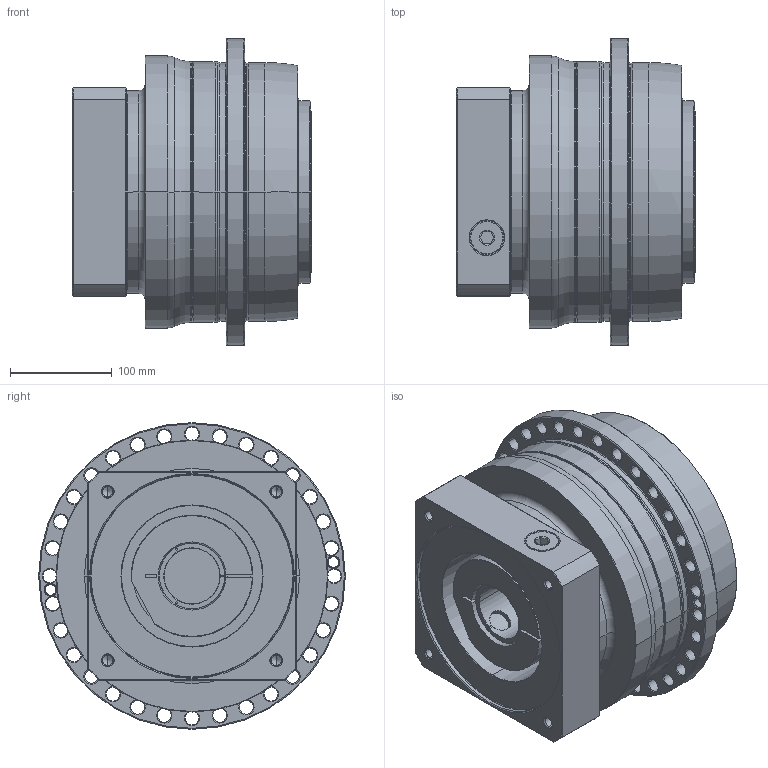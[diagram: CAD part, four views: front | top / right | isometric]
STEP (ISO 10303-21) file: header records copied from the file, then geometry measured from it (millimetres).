
FILE_DESCRIPTION((''),'2;1');
FILE_NAME('AP255_1ST_55-P0409C00201_ASM','2018-05-28T',('d01226'),(''),'PRO/ENGINEER BY PARAMETRIC TECHNOLOGY CORPORATION, 2008410','PRO/ENGINEER BY PARAMETRIC TECHNOLOGY CORPORATION, 2008410','');
FILE_SCHEMA(('CONFIG_CONTROL_DESIGN'));
Length unit declared in the file: millimetre
Products named in the file (9): P0278701003; P0359701103; P1318710401; P0503C00016; P0912704001; P1211700001; P0409C00201; 21711426021; AP255_1ST_55-P0409C00201_ASM
Assembly tree (8 placements, depth 2):
  AP255_1ST_55-P0409C00201_ASM
    P0278701003
    P0359701103
    P1318710401
    P0503C00016
    P0912704001
    P1211700001
    P0409C00201
    21711426021
Bounding box: 235.5 x 302 x 302 mm (x, y, z)
Volume: 9460411.9 mm3; surface area: 798664.7 mm2
Topology: 9 solids, 32 shells, 681 faces, 1627 edges, 989 vertices
Faces by surface type: cylinder 272, cone 222, plane 101, torus 72, bspline 14
Entity records: 24845 total; most frequent: CARTESIAN_POINT 8193, DIRECTION 3845, ORIENTED_EDGE 3140, AXIS2_PLACEMENT_3D 1643, EDGE_CURVE 1617, VERTEX_POINT 989, CIRCLE 947, EDGE_LOOP 824
